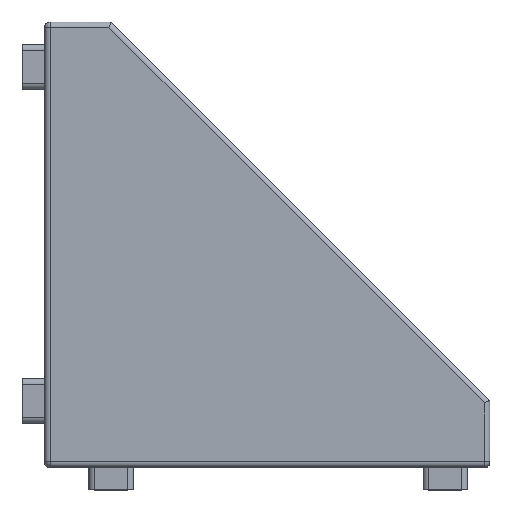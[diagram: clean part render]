
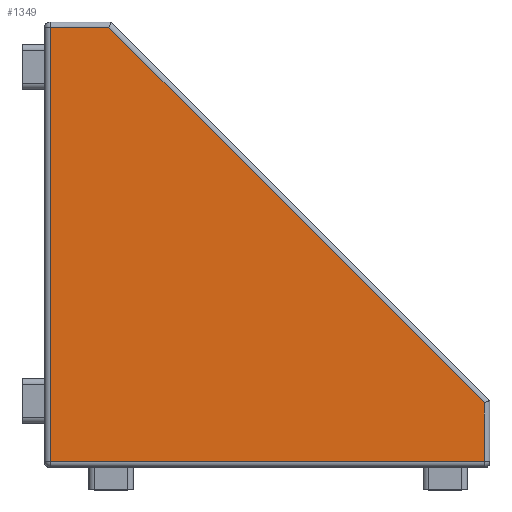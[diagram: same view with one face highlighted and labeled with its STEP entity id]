
A CAD part, top view. The second image highlights one B-rep face of the part: STEP entity #1349.
In plain terms, the highlighted planar face has unit normal (0, 0, 1).
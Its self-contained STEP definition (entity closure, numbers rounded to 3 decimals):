
#21 = CARTESIAN_POINT ( 'NONE',  ( 0.25, 0., 8.5 ) ) ;
#32 = CARTESIAN_POINT ( 'NONE',  ( 0.25, 19.75, 8.5 ) ) ;
#43 = EDGE_CURVE ( 'NONE', #493, #2076, #1475, .T. ) ;
#51 = LINE ( 'NONE', #2016, #1304 ) ;
#98 = LINE ( 'NONE', #637, #1636 ) ;
#163 = CARTESIAN_POINT ( 'NONE',  ( 0., 0., 8.5 ) ) ;
#297 = VECTOR ( 'NONE', #1204, 1000. ) ;
#333 = PLANE ( 'NONE',  #895 ) ;
#405 = EDGE_CURVE ( 'NONE', #685, #868, #98, .T. ) ;
#408 = DIRECTION ( 'NONE',  ( 0., -1., 0. ) ) ;
#411 = DIRECTION ( 'NONE',  ( -0.707, 0.707, 0. ) ) ;
#450 = EDGE_CURVE ( 'NONE', #868, #2252, #51, .T. ) ;
#478 = CARTESIAN_POINT ( 'NONE',  ( 0., 0.25, 8.5 ) ) ;
#489 = LINE ( 'NONE', #478, #297 ) ;
#492 = DIRECTION ( 'NONE',  ( -1., 0., 0. ) ) ;
#493 = VERTEX_POINT ( 'NONE', #32 ) ;
#637 = CARTESIAN_POINT ( 'NONE',  ( 19.75, 0., 8.5 ) ) ;
#685 = VERTEX_POINT ( 'NONE', #2092 ) ;
#831 = CARTESIAN_POINT ( 'NONE',  ( 2.896, 19.75, 8.5 ) ) ;
#868 = VERTEX_POINT ( 'NONE', #1248 ) ;
#880 = LINE ( 'NONE', #1942, #1167 ) ;
#892 = FACE_OUTER_BOUND ( 'NONE', #1759, .T. ) ;
#895 = AXIS2_PLACEMENT_3D ( 'NONE', #163, #1608, #492 ) ;
#916 = ORIENTED_EDGE ( 'NONE', *, *, #405, .T. ) ;
#990 = VECTOR ( 'NONE', #408, 1000. ) ;
#1133 = ORIENTED_EDGE ( 'NONE', *, *, #1914, .T. ) ;
#1167 = VECTOR ( 'NONE', #2275, 1000. ) ;
#1204 = DIRECTION ( 'NONE',  ( 1., 0., 0. ) ) ;
#1248 = CARTESIAN_POINT ( 'NONE',  ( 19.75, 2.896, 8.5 ) ) ;
#1304 = VECTOR ( 'NONE', #411, 1000. ) ;
#1314 = ORIENTED_EDGE ( 'NONE', *, *, #1372, .T. ) ;
#1349 = ADVANCED_FACE ( 'NONE', ( #892 ), #333, .F. ) ;
#1372 = EDGE_CURVE ( 'NONE', #2252, #493, #880, .T. ) ;
#1445 = CARTESIAN_POINT ( 'NONE',  ( 0.25, 0.25, 8.5 ) ) ;
#1475 = LINE ( 'NONE', #21, #990 ) ;
#1608 = DIRECTION ( 'NONE',  ( 0., 0., -1. ) ) ;
#1636 = VECTOR ( 'NONE', #1708, 1000. ) ;
#1708 = DIRECTION ( 'NONE',  ( 0., 1., 0. ) ) ;
#1745 = ORIENTED_EDGE ( 'NONE', *, *, #43, .T. ) ;
#1759 = EDGE_LOOP ( 'NONE', ( #1133, #916, #1811, #1314, #1745 ) ) ;
#1811 = ORIENTED_EDGE ( 'NONE', *, *, #450, .T. ) ;
#1914 = EDGE_CURVE ( 'NONE', #2076, #685, #489, .T. ) ;
#1942 = CARTESIAN_POINT ( 'NONE',  ( 0., 19.75, 8.5 ) ) ;
#2016 = CARTESIAN_POINT ( 'NONE',  ( 2.823, 19.823, 8.5 ) ) ;
#2076 = VERTEX_POINT ( 'NONE', #1445 ) ;
#2092 = CARTESIAN_POINT ( 'NONE',  ( 19.75, 0.25, 8.5 ) ) ;
#2252 = VERTEX_POINT ( 'NONE', #831 ) ;
#2275 = DIRECTION ( 'NONE',  ( -1., 0., 0. ) ) ;
